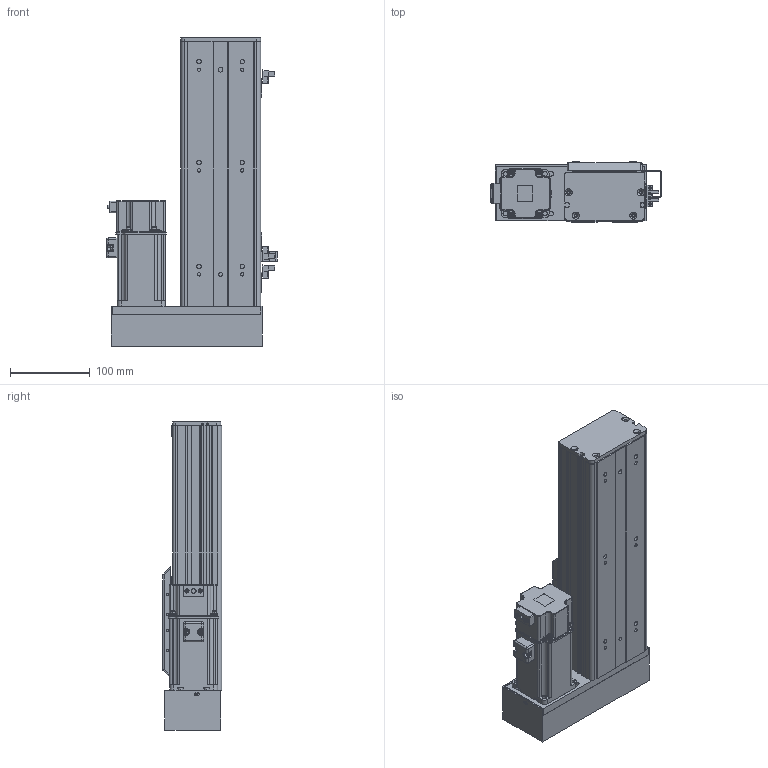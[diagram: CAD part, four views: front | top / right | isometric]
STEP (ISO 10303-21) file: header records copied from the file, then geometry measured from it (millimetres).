
FILE_DESCRIPTION (( 'STEP AP203' ), '1' );
FILE_NAME ('BOSW100-150-1610-1P-RM-M400W-O-S3（方程式2016）.step', '2020-10-10T07:03:19', ( '' ), ( '' ), 'SwSTEP 2.0', 'SolidWorks 2016', '' );
FILE_SCHEMA (( 'CONFIG_CONTROL_DESIGN' ));
Length unit declared in the file: millimetre
Products named in the file (14): BOSW&TW-100-俋离覜茼え; boS-100-LM&RM-三菱M400W马达板-宽轨; 俋境嫖覜嘐隅啣; 新结构AIMSW-100-1P-宽&高轨共用-滑动座上组件; AIMS(W)-100-LM&RM-肮祭謫欶; 放大器内置U型微型光电传感器PM-L65; S400W(SMA-L040); BOSW-100-1P-DM-宽轨-侧板-150客户图纸; BOSW&TW-100-1P-賑雄釱欶; BOSW-100-1P-DM-宽轨-钢带-150客户图纸; BOSW-100-1P-DM-150諦誧芞; BOSW-100-綴裔啣; BOSW100-150-1610-1P-RM-M400W-O-S3（方程式2016）; BOSW&TW-100-詩湍揤沭(陔賦凳)
Assembly tree (19 placements, depth 2):
  BOSW100-150-1610-1P-RM-M400W-O-S3（方程式2016）
    BOSW-100-1P-DM-150諦誧芞
    BOSW-100-綴裔啣
    新结构AIMSW-100-1P-宽&高轨共用-滑动座上组件
    S400W(SMA-L040)
    BOSW&TW-100-詩湍揤沭(陔賦凳)  x2
    BOSW&TW-100-1P-賑雄釱欶
    BOSW-100-1P-DM-宽轨-侧板-150客户图纸  x2
    BOSW-100-1P-DM-宽轨-钢带-150客户图纸
    AIMS(W)-100-LM&RM-肮祭謫欶
    boS-100-LM&RM-三菱M400W马达板-宽轨
    俋境嫖覜嘐隅啣  x3
    放大器内置U型微型光电传感器PM-L65  x3
    BOSW&TW-100-俋离覜茼え
Bounding box: 213.4 x 75 x 386 mm (x, y, z)
Volume: 1070295.2 mm3; surface area: 542214.6 mm2
Topology: 19 solids, 20 shells, 2479 faces, 6525 edges, 4159 vertices
Faces by surface type: plane 1235, cylinder 758, bspline 271, cone 167, torus 36, sphere 12
Entity records: 67528 total; most frequent: CARTESIAN_POINT 20398, ORIENTED_EDGE 9590, DIRECTION 9255, EDGE_CURVE 4795, AXIS2_PLACEMENT_3D 3259, VERTEX_POINT 3061, LINE 2737, VECTOR 2737
